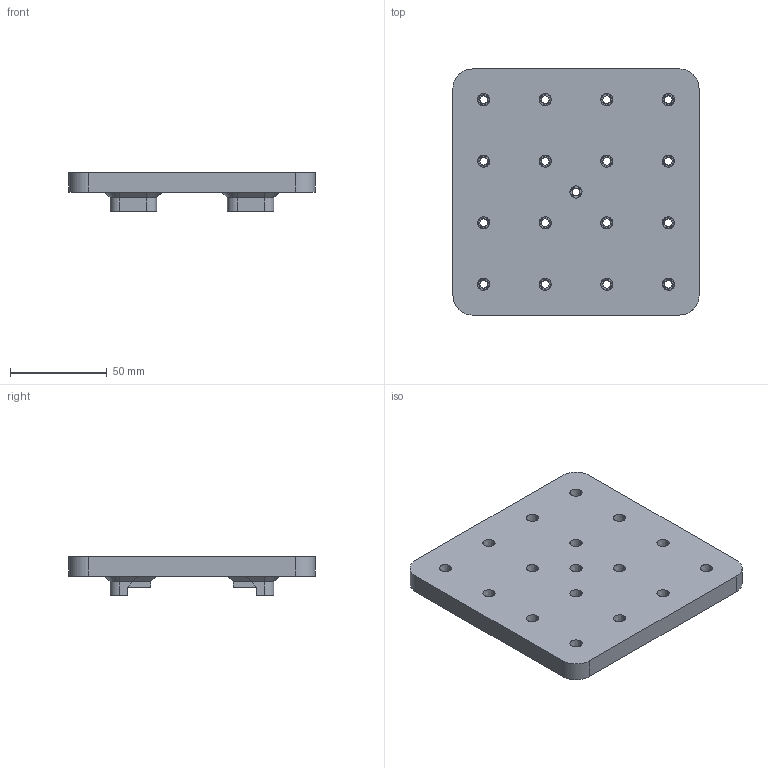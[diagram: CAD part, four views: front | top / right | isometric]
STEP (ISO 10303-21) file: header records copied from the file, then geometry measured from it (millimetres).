
FILE_DESCRIPTION(/* description */ (''),/* implementation_level */ '2;1');
FILE_NAME(/* name */ '240803-DIYUTM-Platform',/* time_stamp */ '2024-08-03T10:06:04+02:00',/* author */ (''),/* organization */ (''),/* preprocessor_version */ 'ST-DEVELOPER v16.5',/* originating_system */ 'Rhino 7.37',/* authorisation */ '');
FILE_SCHEMA (('CONFIG_CONTROL_DESIGN'));
Length unit declared in the file: millimetre
Products named in the file (1): Document
Bounding box: 127.07 x 127.07 x 19.9 mm (x, y, z)
Volume: 168723.4 mm3; surface area: 42137.3 mm2
Topology: 1 solids, 1 shells, 235 faces, 580 edges, 376 vertices
Faces by surface type: plane 123, bspline 58, cylinder 54
Entity records: 7769 total; most frequent: CARTESIAN_POINT 3971, ORIENTED_EDGE 1160, EDGE_CURVE 580, VERTEX_POINT 376, EDGE_LOOP 298, ADVANCED_FACE 235, FACE_OUTER_BOUND 235, B_SPLINE_CURVE_WITH_KNOTS 228
